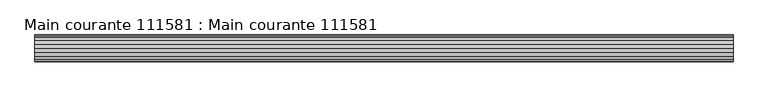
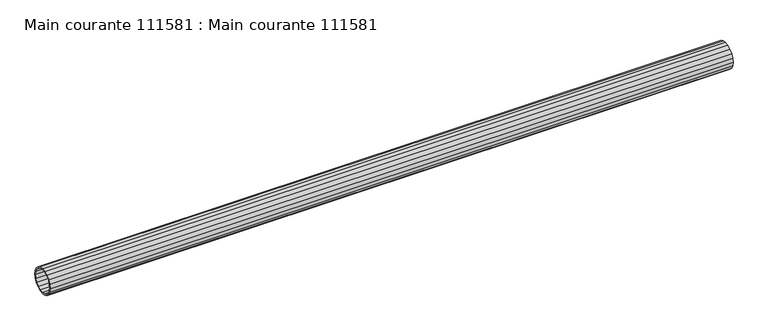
"""IFC4 building model written with IfcOpenShell, lengths in millimetres: beam geometry, Main courante 111581 : Main courante 111581."""

from ifc_helpers import new_model, si_unit, frame, origin, place, context, project, spatial, polyline, outline, extrude, source, transform, mapped, element, save


def main_courante_111581_main_courante_111581_bf0b8dc7(model_context):
    return source(origin(), model_context, "Body", "SweptSolid", [
        extrude(outline(polyline([(-24939.3127604, 8787.9680149), (-24931.85, 8789.15), (-24924.3872396, 8787.9680149), (-24917.6549862, 8784.5377604), (-24912.3122396, 8779.1950138), (-24908.8819851, 8772.4627604), (-24907.7, 8765.0), (-24908.8819851, 8757.5372396), (-24912.3122396, 8750.8049862), (-24917.6549862, 8745.4622396), (-24924.3872396, 8742.0319851), (-24931.85, 8740.85), (-24939.3127604, 8742.0319851), (-24946.0450138, 8745.4622396), (-24951.3877604, 8750.8049862), (-24954.8180149, 8757.5372396), (-24956.0, 8765.0), (-24954.8180149, 8772.4627604), (-24951.3877604, 8779.1950138), (-24946.0450138, 8784.5377604), (-24939.3127604, 8787.9680149)]), holes=[polyline([(-24911.2596264, 8771.6902179), (-24914.3347821, 8777.7255507), (-24919.1244493, 8782.5152179), (-24925.1597821, 8785.5903736), (-24931.85, 8786.65), (-24938.5402179, 8785.5903736), (-24944.5755507, 8782.5152179), (-24949.3652179, 8777.7255507), (-24952.4403736, 8771.6902179), (-24953.5, 8765.0), (-24952.4403736, 8758.3097821), (-24949.3652179, 8752.2744493), (-24944.5755507, 8747.4847821), (-24938.5402179, 8744.4096264), (-24931.85, 8743.35), (-24925.1597821, 8744.4096264), (-24919.1244493, 8747.4847821), (-24914.3347821, 8752.2744493), (-24911.2596264, 8758.3097821), (-24910.2, 8765.0), (-24911.2596264, 8771.6902179)])]), frame((-28.0000001, 0.0, 0.0), z_axis=(1.0, 0.0, 0.0), x_axis=(0.0, 1.0, 0.0)), (0.0, 0.0, 1.0), 1254.5),
    ])


if __name__ == "__main__":
    model = new_model("IFC4")
    model_context = context("Model", 3, world=origin())
    ifc_project = project(units=[si_unit("LENGTHUNIT", "METRE", prefix="MILLI")], contexts=[model_context])
    site = spatial("IfcSite", under=ifc_project)
    building = spatial("IfcBuilding", under=site)
    placement = place(None, origin())
    main_courante_111581_main_courante_111581_shape = main_courante_111581_main_courante_111581_bf0b8dc7(model_context)
    element("IfcBeam", 1, ObjectType="Main courante 111581 : Main courante 111581", at=placement, inside=building, context=model_context, shape_type="MappedRepresentation", body=[
        mapped(main_courante_111581_main_courante_111581_shape, transform((0.0, 0.0, 0.0), x_axis=(1.0, 0.0, 0.0), y_axis=(0.0, 1.0, 0.0), z_axis=(0.0, 0.0, 1.0))),
    ])
    save(model, "model.ifc")
